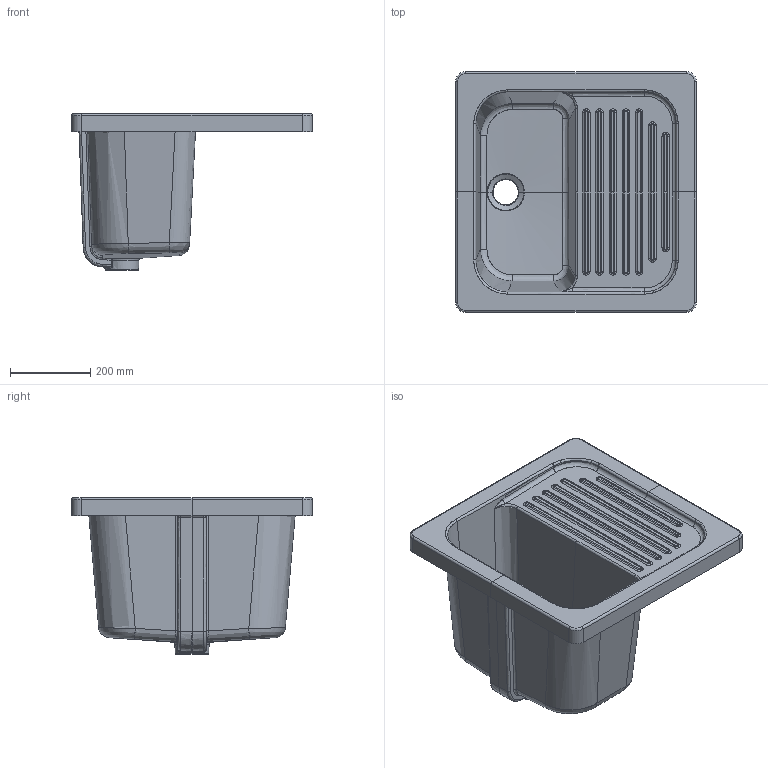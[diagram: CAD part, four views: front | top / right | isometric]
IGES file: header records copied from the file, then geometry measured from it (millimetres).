
Start section: START RECORD GO HERE.
Global section: file name: 2003_3D.igs; native system: DASSAULT SYSTEMES CATIA V5 R19 - www.3ds.com; preprocessor: CATIA Version 5 Release 19 SP 5 ; author: gioge; organization: LAPTOP-G94B6G74; date: 20201022.155816; units: millimetre
Bounding box: 600 x 600 x 390 mm (x, y, z)
Surface area: 1655599.5 mm2 (no closed solid volume)
Topology: 0 solids, 0 shells, 307 faces, 1436 edges, 1430 vertices
Faces by surface type: revolution 162, bspline 102, plane 43
